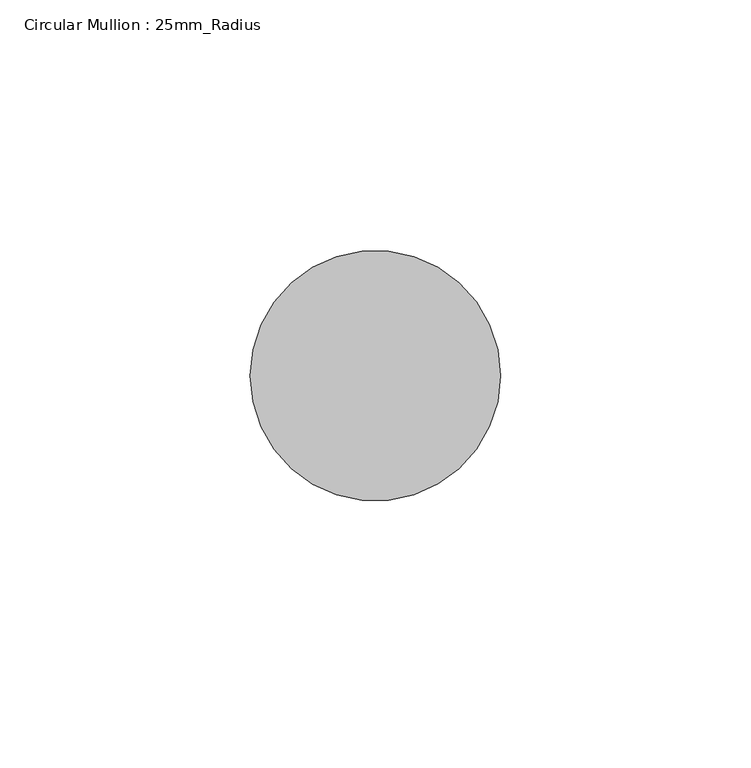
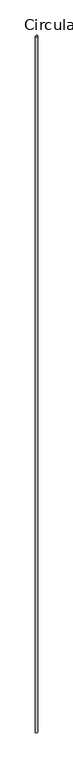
"""IFC4 building model written with IfcOpenShell, lengths in millimetres: member geometry, Circular Mullion : 25mm_Radius."""

from ifc_helpers import new_model, si_unit, frame, origin, place, context, project, spatial, circle_curve, ellipse_curve, source, transform, mapped, element, save
from ifc_brep_helpers import plane_surface, cylinder_surface, advanced_brep


def circular_mullion_25mm_radius_792aeb29(model_context):
    return source(origin(), model_context, "Body", "AdvancedBrep", [
        advanced_brep(
        [(0.0, 0.0, -19286.9809688), (-50.0, 0.0, -19286.9809688), (-50.0, 0.0, -30.3335797), (0.0, 0.0, 0.0)],
        [
            (0, 1, circle_curve(frame((-25.0, 0.0, -19286.9809688), z_axis=(0.0, 0.0, -1.0), x_axis=(1.0, 0.0, 0.0)), 25.0)),
            (1, 0, circle_curve(frame((-25.0, 0.0, -19286.9809688), z_axis=(0.0, 0.0, -1.0), x_axis=(1.0, 0.0, 0.0)), 25.0)),
            (2, 3, ellipse_curve(frame((-25.0, 0.0, -15.1667898), z_axis=(0.5186837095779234, 0.0, -0.8549662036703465), x_axis=(0.8549662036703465, 0.0, 0.5186837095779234)), 29.2409219, 25.0)),
            (3, 0),
            (1, 2),
            (3, 2, ellipse_curve(frame((-25.0, 0.0, -15.1667898), z_axis=(0.5186837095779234, 0.0, -0.8549662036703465), x_axis=(0.8549662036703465, 0.0, 0.5186837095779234)), 29.2409219, 25.0)),
        ],
        [
            plane_surface(frame((0.0, -50.0, -19286.9809688), z_axis=(0.0, 0.0, -1.0), x_axis=(-1.0, 0.0, 0.0))),
            cylinder_surface(frame((-25.0, 0.0, 0.0), z_axis=(0.0, 0.0, 1.0), x_axis=(1.0, 0.0, 0.0)), 25.0),
            plane_surface(frame((0.0, -304.8, 0.0), z_axis=(-0.5186837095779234, 0.0, 0.8549662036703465), x_axis=(-0.8549662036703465, 0.0, -0.5186837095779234))),
        ],
        [
            (0, [[1, 2]]),
            (1, [[3, 4, -2, 5]]),
            (1, [[6, -5, -1, -4]]),
            (2, [[-3, -6]]),
        ],
    ),
    ])


if __name__ == "__main__":
    model = new_model("IFC4")
    model_context = context("Model", 3, world=origin())
    ifc_project = project(units=[si_unit("LENGTHUNIT", "METRE", prefix="MILLI")], contexts=[model_context])
    site = spatial("IfcSite", under=ifc_project)
    building = spatial("IfcBuilding", under=site)
    placement = place(None, origin())
    circular_mullion_25mm_radius_shape = circular_mullion_25mm_radius_792aeb29(model_context)
    element("IfcMember", 1, ObjectType="Circular Mullion : 25mm_Radius", at=placement, inside=building, context=model_context, shape_type="MappedRepresentation", body=[
        mapped(circular_mullion_25mm_radius_shape, transform((0.0, 0.0, 0.0), x_axis=(1.0, 0.0, 0.0), y_axis=(0.0, 1.0, 0.0), z_axis=(0.0, 0.0, 1.0))),
    ])
    save(model, "model.ifc")
